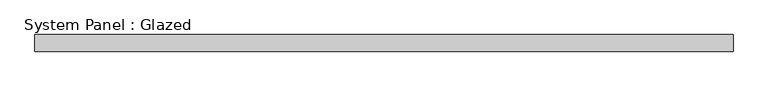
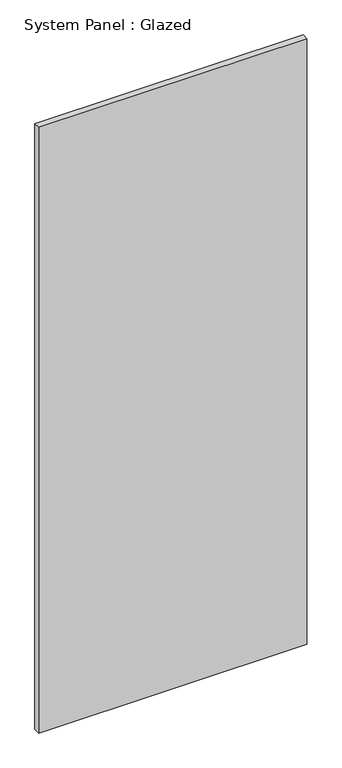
"""IFC4 building model written with IfcOpenShell, lengths in millimetres: plate geometry, System Panel : Glazed."""

from ifc_helpers import new_model, si_unit, origin, origin_with_axes, place, context, project, spatial, polyline, outline, extrude, source, transform, mapped, element, save


def system_panel_glazed_57cf4964(model_context):
    return source(origin(), model_context, "Body", "SweptSolid", [
        extrude(outline(polyline([(516.25, -72.5), (-516.25, -72.5), (-516.25, -47.5), (516.25, -47.5), (516.25, -72.5)])), origin_with_axes(), (0.0, 0.0, 1.0), 2465.0),
    ])


if __name__ == "__main__":
    model = new_model("IFC4")
    model_context = context("Model", 3, world=origin())
    ifc_project = project(units=[si_unit("LENGTHUNIT", "METRE", prefix="MILLI")], contexts=[model_context])
    site = spatial("IfcSite", under=ifc_project)
    building = spatial("IfcBuilding", under=site)
    placement = place(None, origin())
    system_panel_glazed_shape = system_panel_glazed_57cf4964(model_context)
    element("IfcPlate", 1, ObjectType="System Panel : Glazed", at=placement, inside=building, context=model_context, shape_type="MappedRepresentation", body=[
        mapped(system_panel_glazed_shape, transform((0.0, 0.0, 0.0), x_axis=(1.0, 0.0, 0.0), y_axis=(0.0, 1.0, 0.0), z_axis=(0.0, 0.0, 1.0))),
    ])
    save(model, "model.ifc")
